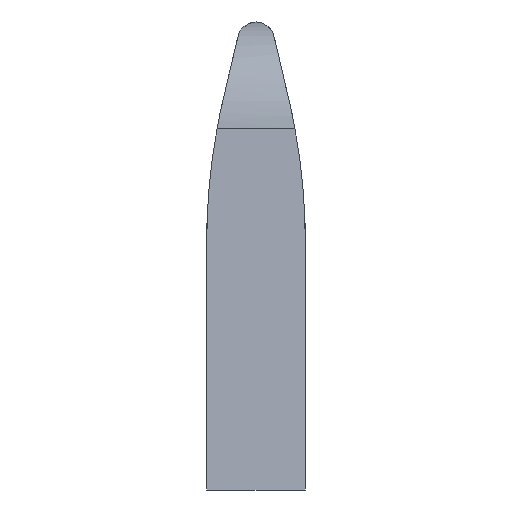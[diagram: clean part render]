
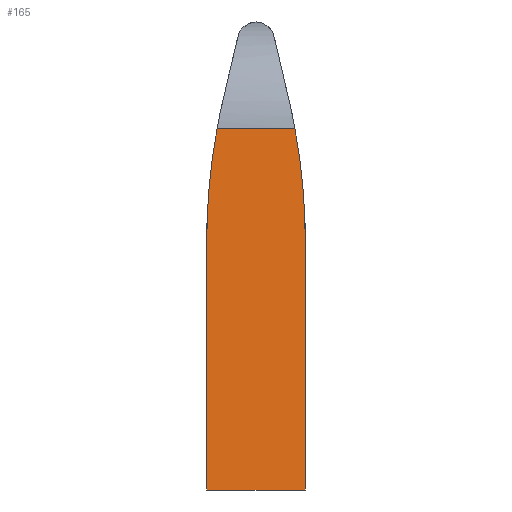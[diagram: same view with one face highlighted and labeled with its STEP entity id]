
A CAD part, left-side view. The second image highlights one B-rep face of the part: STEP entity #165.
In plain terms, the highlighted planar face has unit normal (-0.996, 0, 0.087).
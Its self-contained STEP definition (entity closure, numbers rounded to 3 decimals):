
#165 = ADVANCED_FACE( '', ( #463 ), #464, .T. );
#213 = VERTEX_POINT( '', #520 );
#231 = VERTEX_POINT( '', #539 );
#349 = VERTEX_POINT( '', #670 );
#351 = EDGE_CURVE( '', #365, #435, #672, .T. );
#353 = EDGE_CURVE( '', #231, #213, #674, .T. );
#357 = VERTEX_POINT( '', #679 );
#361 = EDGE_CURVE( '', #365, #213, #683, .T. );
#365 = VERTEX_POINT( '', #688 );
#379 = EDGE_CURVE( '', #349, #357, #703, .T. );
#393 = EDGE_CURVE( '', #231, #357, #717, .T. );
#429 = EDGE_CURVE( '', #435, #349, #755, .T. );
#435 = VERTEX_POINT( '', #761 );
#463 = FACE_OUTER_BOUND( '', #779, .T. );
#464 = PLANE( '', #780 );
#520 = CARTESIAN_POINT( '', ( -19.231, 4., 20.222 ) );
#539 = CARTESIAN_POINT( '', ( -18.434, 3.164, 29.328 ) );
#670 = CARTESIAN_POINT( '', ( -19.231, -4., 20.222 ) );
#672 = LINE( '', #1127, #1128 );
#674 = ELLIPSE( '', #1131, 50.191, 50. );
#679 = CARTESIAN_POINT( '', ( -18.434, -3.164, 29.328 ) );
#683 = LINE( '', #1143, #1144 );
#688 = CARTESIAN_POINT( '', ( -21., 4., 0. ) );
#703 = ELLIPSE( '', #1178, 50.191, 50. );
#717 = LINE( '', #1205, #1206 );
#755 = LINE( '', #1266, #1267 );
#761 = CARTESIAN_POINT( '', ( -21., -4., 0. ) );
#779 = EDGE_LOOP( '', ( #1293, #1294, #1295, #1296, #1297, #1298 ) );
#780 = AXIS2_PLACEMENT_3D( '', #1299, #1300, #1301 );
#1127 = CARTESIAN_POINT( '', ( -21., 4., 0. ) );
#1128 = VECTOR( '', #1543, 1. );
#1131 = AXIS2_PLACEMENT_3D( '', #1544, #1545, #1546 );
#1143 = CARTESIAN_POINT( '', ( -21., 4., 0. ) );
#1144 = VECTOR( '', #1557, 1. );
#1178 = AXIS2_PLACEMENT_3D( '', #1581, #1582, #1583 );
#1205 = CARTESIAN_POINT( '', ( -18.434, 4., 29.328 ) );
#1206 = VECTOR( '', #1587, 1. );
#1266 = CARTESIAN_POINT( '', ( -21., -4., 0. ) );
#1267 = VECTOR( '', #1625, 1. );
#1293 = ORIENTED_EDGE( '', *, *, #379, .T. );
#1294 = ORIENTED_EDGE( '', *, *, #393, .F. );
#1295 = ORIENTED_EDGE( '', *, *, #353, .T. );
#1296 = ORIENTED_EDGE( '', *, *, #361, .F. );
#1297 = ORIENTED_EDGE( '', *, *, #351, .T. );
#1298 = ORIENTED_EDGE( '', *, *, #429, .T. );
#1299 = CARTESIAN_POINT( '', ( -21., 4., 0. ) );
#1300 = DIRECTION( '', ( -0.996, 0., 0.087 ) );
#1301 = DIRECTION( '', ( -0.087, 0., -0.996 ) );
#1543 = DIRECTION( '', ( 0., -1., 0. ) );
#1544 = CARTESIAN_POINT( '', ( -19.231, -46., 20.222 ) );
#1545 = DIRECTION( '', ( -0.996, 0., 0.087 ) );
#1546 = DIRECTION( '', ( 0.087, 0., 0.996 ) );
#1557 = DIRECTION( '', ( 0.087, 0., 0.996 ) );
#1581 = CARTESIAN_POINT( '', ( -19.231, 46., 20.222 ) );
#1582 = DIRECTION( '', ( -0.996, 0., 0.087 ) );
#1583 = DIRECTION( '', ( 0.087, 0., 0.996 ) );
#1587 = DIRECTION( '', ( 0., -1., 0. ) );
#1625 = DIRECTION( '', ( 0.087, 0., 0.996 ) );
